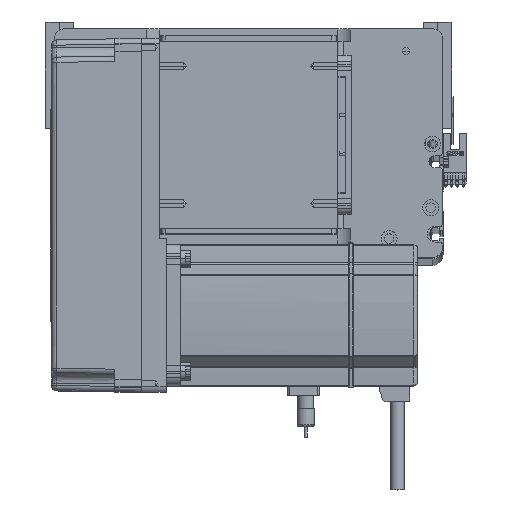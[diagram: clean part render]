
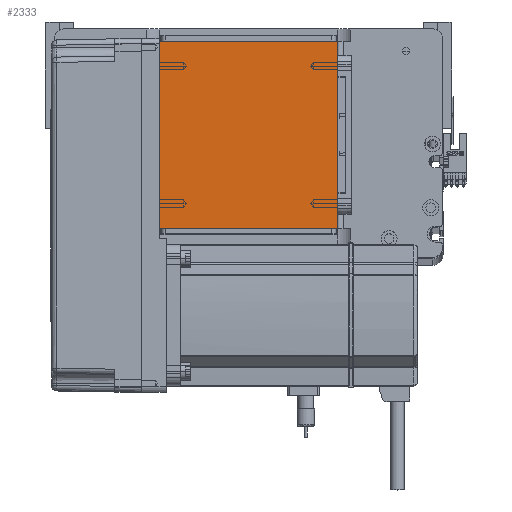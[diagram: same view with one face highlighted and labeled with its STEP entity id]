
A CAD part, top view. The second image highlights one B-rep face of the part: STEP entity #2333.
In plain terms, the highlighted planar face has unit normal (0, 0, 1).
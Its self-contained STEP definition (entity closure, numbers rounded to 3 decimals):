
#2052 = CARTESIAN_POINT ( 'NONE',  ( 50.5, 122., 115. ) ) ;
#2333 = ADVANCED_FACE ( 'NONE', ( #12988 ), #19554, .T. ) ;
#2791 = ORIENTED_EDGE ( 'NONE', *, *, #48392, .T. ) ;
#3279 = CARTESIAN_POINT ( 'NONE',  ( -50.5, 16., 115. ) ) ;
#5986 = LINE ( 'NONE', #13621, #42191 ) ;
#6041 = DIRECTION ( 'NONE',  ( -1., 0., 0. ) ) ;
#6321 = VECTOR ( 'NONE', #6041, 1000. ) ;
#8434 = ORIENTED_EDGE ( 'NONE', *, *, #43625, .T. ) ;
#10351 = LINE ( 'NONE', #35310, #6321 ) ;
#10405 = EDGE_CURVE ( 'NONE', #35850, #50654, #10351, .T. ) ;
#12988 = FACE_OUTER_BOUND ( 'NONE', #22119, .T. ) ;
#13621 = CARTESIAN_POINT ( 'NONE',  ( -50.5, 122., 115. ) ) ;
#15002 = CARTESIAN_POINT ( 'NONE',  ( 50.5, 16., 115. ) ) ;
#16263 = DIRECTION ( 'NONE',  ( 1., 0., 0. ) ) ;
#17521 = VERTEX_POINT ( 'NONE', #3279 ) ;
#18936 = ORIENTED_EDGE ( 'NONE', *, *, #10405, .T. ) ;
#19554 = PLANE ( 'NONE',  #30680 ) ;
#19742 = CARTESIAN_POINT ( 'NONE',  ( 0., 0., 115. ) ) ;
#21953 = VECTOR ( 'NONE', #16263, 1000. ) ;
#22119 = EDGE_LOOP ( 'NONE', ( #35628, #8434, #2791, #18936 ) ) ;
#23871 = DIRECTION ( 'NONE',  ( 1., 0., 0. ) ) ;
#23984 = VERTEX_POINT ( 'NONE', #15002 ) ;
#24604 = LINE ( 'NONE', #42138, #21953 ) ;
#29026 = VECTOR ( 'NONE', #46487, 1000. ) ;
#30680 = AXIS2_PLACEMENT_3D ( 'NONE', #19742, #49183, #23871 ) ;
#30885 = DIRECTION ( 'NONE',  ( 0., -1., 0. ) ) ;
#31719 = LINE ( 'NONE', #50053, #29026 ) ;
#35310 = CARTESIAN_POINT ( 'NONE',  ( -50.5, 122., 115. ) ) ;
#35628 = ORIENTED_EDGE ( 'NONE', *, *, #41510, .T. ) ;
#35850 = VERTEX_POINT ( 'NONE', #2052 ) ;
#41510 = EDGE_CURVE ( 'NONE', #50654, #17521, #5986, .T. ) ;
#42138 = CARTESIAN_POINT ( 'NONE',  ( -50.5, 16., 115. ) ) ;
#42191 = VECTOR ( 'NONE', #30885, 1000. ) ;
#43625 = EDGE_CURVE ( 'NONE', #17521, #23984, #24604, .T. ) ;
#46487 = DIRECTION ( 'NONE',  ( 0., 1., 0. ) ) ;
#47525 = CARTESIAN_POINT ( 'NONE',  ( -50.5, 122., 115. ) ) ;
#48392 = EDGE_CURVE ( 'NONE', #23984, #35850, #31719, .T. ) ;
#49183 = DIRECTION ( 'NONE',  ( 0., 0., 1. ) ) ;
#50053 = CARTESIAN_POINT ( 'NONE',  ( 50.5, 122., 115. ) ) ;
#50654 = VERTEX_POINT ( 'NONE', #47525 ) ;
